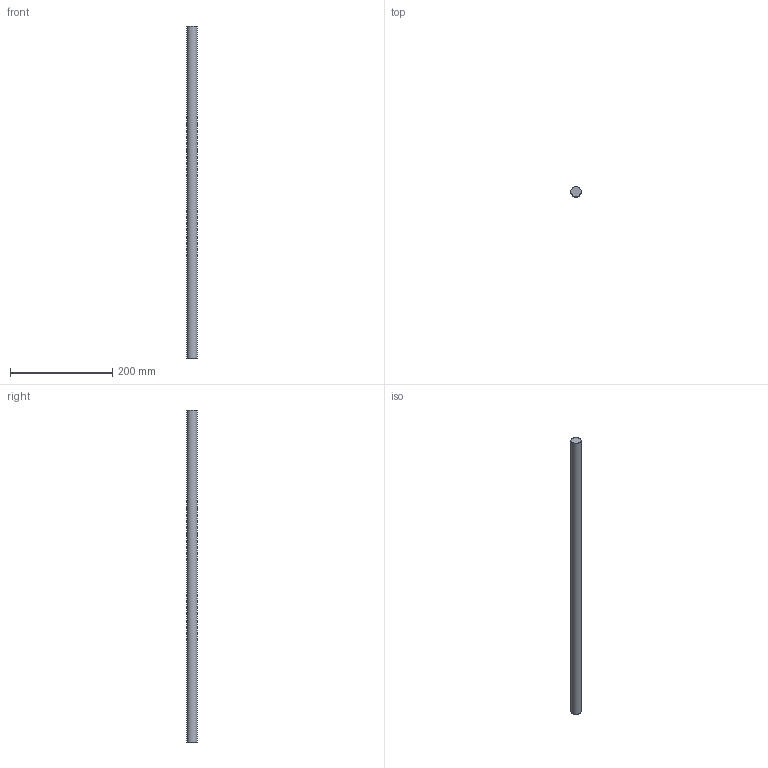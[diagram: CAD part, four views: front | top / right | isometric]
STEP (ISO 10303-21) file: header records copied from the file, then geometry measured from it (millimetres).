
FILE_DESCRIPTION(/* description */ (''),/* implementation_level */ '2;1');
FILE_NAME(/* name */ 'C:\Users\David\Desktop\stepFiles\Profilfuehrung\WF20x650.stp',/* time_stamp */ '2018-06-24T15:49:03+02:00',/* author */ ('David'),/* organization */ (''),/* preprocessor_version */ 'ST-DEVELOPER v17',/* originating_system */ 'Autodesk Inventor 2019',/* authorisation */ '');
FILE_SCHEMA (('AUTOMOTIVE_DESIGN { 1 0 10303 214 3 1 1 }'));
Length unit declared in the file: millimetre
Products named in the file (1): Wellenfuehrung
Bounding box: 20 x 20 x 650 mm (x, y, z)
Volume: 204203.5 mm3; surface area: 41469 mm2
Topology: 1 solids, 1 shells, 3 faces, 3 edges, 2 vertices
Faces by surface type: plane 2, cylinder 1
Full cylindrical faces by diameter (mm): 20 x1
Entity records: 98 total; most frequent: DIRECTION 13, CARTESIAN_POINT 9, ORIENTED_EDGE 6, AXIS2_PLACEMENT_3D 6, FACE_OUTER_BOUND 3, EDGE_LOOP 3, EDGE_CURVE 3, ADVANCED_FACE 3
